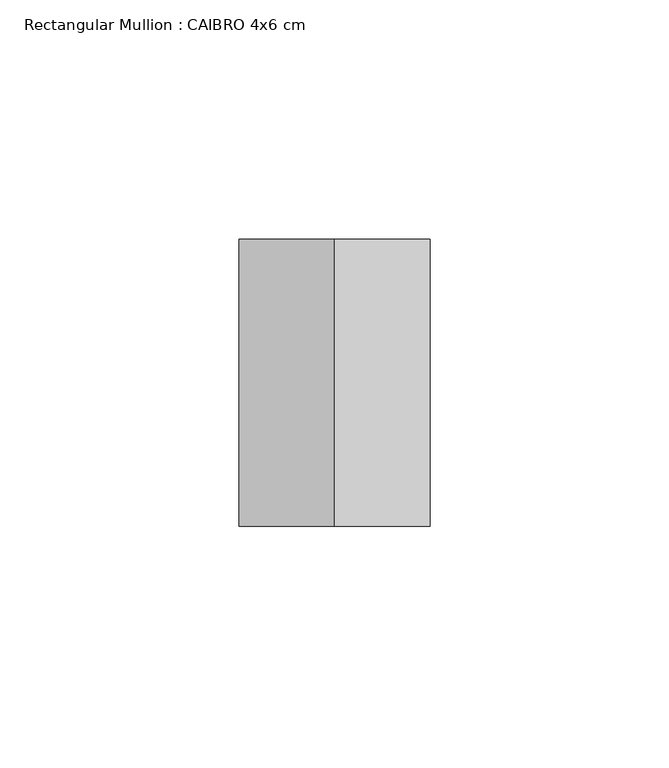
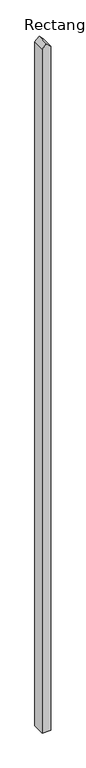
"""IFC4 building model written with IfcOpenShell, lengths in millimetres: member geometry, Rectangular Mullion : CAIBRO 4x6 cm."""

from ifc_helpers import new_model, si_unit, frame, origin, place, context, project, spatial, polyline, outline, extrude, source, transform, mapped, element, save


def rectangular_mullion_caibro_4x6_cm_0d1ac49e(model_context):
    return source(origin(), model_context, "Body", "SweptSolid", [
        extrude(outline(polyline([(-77.109599, 20.0), (-56.8858506, 0.0), (-77.109599, -20.0), (-3488.7644131, -20.0), (-3488.7644131, 20.0), (-77.109599, 20.0)])), frame((0.0, 0.0, 0.0), z_axis=(0.0, 1.0, 0.0), x_axis=(0.0, 0.0, 1.0)), (0.0, 0.0, 1.0), 60.0),
    ])


if __name__ == "__main__":
    model = new_model("IFC4")
    model_context = context("Model", 3, world=origin())
    ifc_project = project(units=[si_unit("LENGTHUNIT", "METRE", prefix="MILLI")], contexts=[model_context])
    site = spatial("IfcSite", under=ifc_project)
    building = spatial("IfcBuilding", under=site)
    placement = place(None, origin())
    rectangular_mullion_caibro_4x6_cm_shape = rectangular_mullion_caibro_4x6_cm_0d1ac49e(model_context)
    element("IfcMember", 1, ObjectType="Rectangular Mullion : CAIBRO 4x6 cm", at=placement, inside=building, context=model_context, shape_type="MappedRepresentation", body=[
        mapped(rectangular_mullion_caibro_4x6_cm_shape, transform((0.0, 0.0, 0.0), x_axis=(1.0, 0.0, 0.0), y_axis=(0.0, 1.0, 0.0), z_axis=(0.0, 0.0, 1.0))),
    ])
    save(model, "model.ifc")
